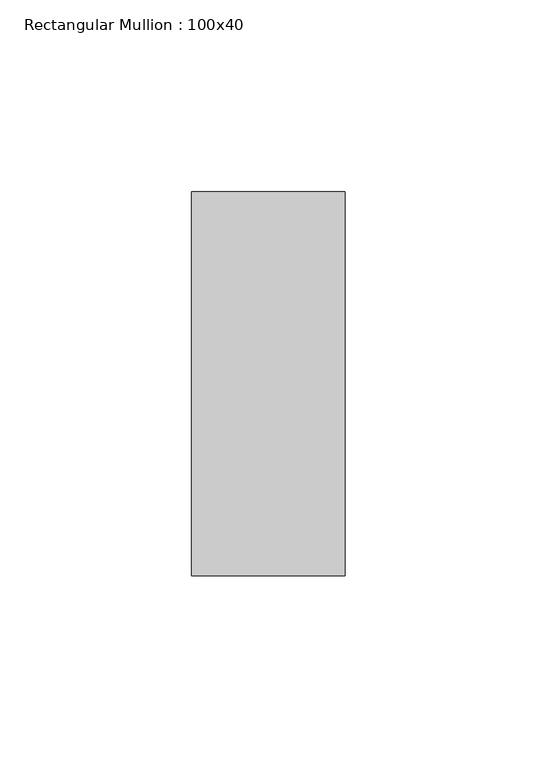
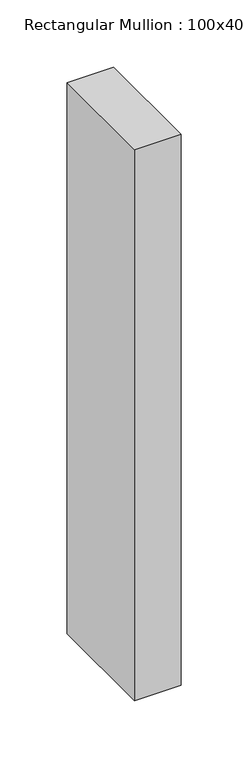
"""IFC4 building model written with IfcOpenShell, lengths in millimetres: member geometry, Rectangular Mullion : 100x40."""

from ifc_helpers import new_model, si_unit, frame, origin, place, context, project, spatial, polyline, outline, extrude, source, transform, mapped, element, save


def rectangular_mullion_100x40_7b962c6c(model_context):
    return source(origin(), model_context, "Body", "SweptSolid", [
        extrude(outline(polyline([(0.0, 50.0), (0.0, -50.0), (-40.0, -50.0), (-40.0, 50.0), (0.0, 50.0)])), frame((0.0, 0.0, -500.0), z_axis=(0.0, 0.0, 1.0), x_axis=(1.0, 0.0, 0.0)), (0.0, 0.0, 1.0), 500.0),
    ])


if __name__ == "__main__":
    model = new_model("IFC4")
    model_context = context("Model", 3, world=origin())
    ifc_project = project(units=[si_unit("LENGTHUNIT", "METRE", prefix="MILLI")], contexts=[model_context])
    site = spatial("IfcSite", under=ifc_project)
    building = spatial("IfcBuilding", under=site)
    placement = place(None, origin())
    rectangular_mullion_100x40_shape = rectangular_mullion_100x40_7b962c6c(model_context)
    element("IfcMember", 1, ObjectType="Rectangular Mullion : 100x40", at=placement, inside=building, context=model_context, shape_type="MappedRepresentation", body=[
        mapped(rectangular_mullion_100x40_shape, transform((0.0, 0.0, 0.0), x_axis=(1.0, 0.0, 0.0), y_axis=(0.0, 1.0, 0.0), z_axis=(0.0, 0.0, 1.0))),
    ])
    save(model, "model.ifc")
